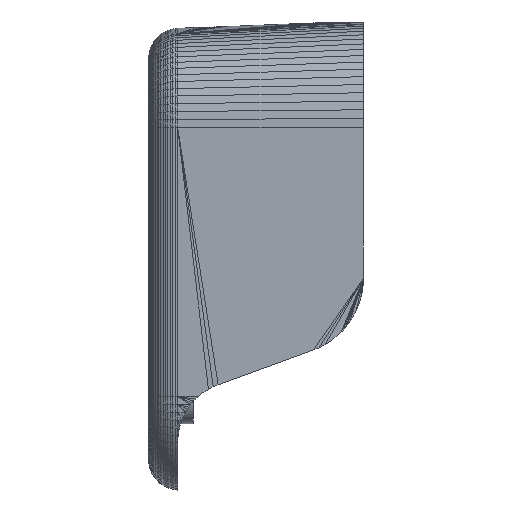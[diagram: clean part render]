
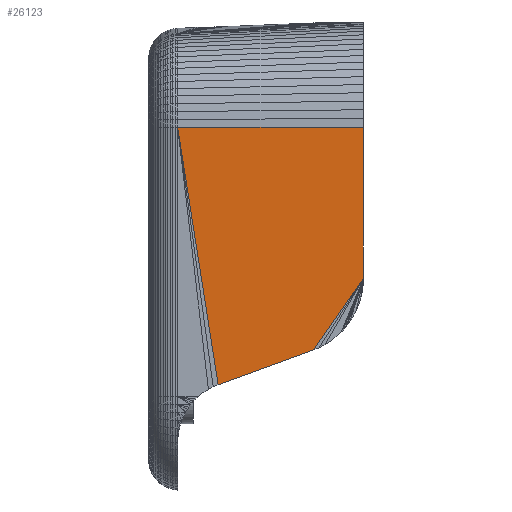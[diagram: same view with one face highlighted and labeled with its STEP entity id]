
A CAD part, front view. The second image highlights one B-rep face of the part: STEP entity #26123.
In plain terms, the highlighted planar face has unit normal (-0.052, -0.999, 0).
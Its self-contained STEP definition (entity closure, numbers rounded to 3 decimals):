
#79 = LINE ( 'NONE', #42123, #107286 ) ;
#1333 = LINE ( 'NONE', #42746, #95669 ) ;
#10342 = DIRECTION ( 'NONE',  ( 0.999, -0.052, 0. ) ) ;
#11545 = CARTESIAN_POINT ( 'NONE',  ( -49.08, -13.123, 6.015 ) ) ;
#15933 = VECTOR ( 'NONE', #76302, 1000. ) ;
#26123 = ADVANCED_FACE ( 'NONE', ( #36216 ), #119658, .T. ) ;
#29509 = ORIENTED_EDGE ( 'NONE', *, *, #55118, .T. ) ;
#36216 = FACE_OUTER_BOUND ( 'NONE', #42720, .T. ) ;
#39234 = ORIENTED_EDGE ( 'NONE', *, *, #128385, .F. ) ;
#42105 = DIRECTION ( 'NONE',  ( -0.939, 0.049, -0.342 ) ) ;
#42123 = CARTESIAN_POINT ( 'NONE',  ( -42.5, -13.467, 35.065 ) ) ;
#42720 = EDGE_LOOP ( 'NONE', ( #133995, #39234, #52052, #29509, #50536 ) ) ;
#42746 = CARTESIAN_POINT ( 'NONE',  ( -49.08, -13.123, 6.015 ) ) ;
#45457 = VECTOR ( 'NONE', #71028, 1000. ) ;
#45585 = CARTESIAN_POINT ( 'NONE',  ( -49.08, -13.123, 6.015 ) ) ;
#49175 = VERTEX_POINT ( 'NONE', #45585 ) ;
#50536 = ORIENTED_EDGE ( 'NONE', *, *, #96657, .F. ) ;
#51435 = EDGE_CURVE ( 'NONE', #49175, #58561, #53641, .T. ) ;
#52052 = ORIENTED_EDGE ( 'NONE', *, *, #51435, .F. ) ;
#52639 = VERTEX_POINT ( 'NONE', #87548 ) ;
#53641 = LINE ( 'NONE', #11545, #58366 ) ;
#54264 = DIRECTION ( 'NONE',  ( 0.573, -0.03, 0.819 ) ) ;
#55118 = EDGE_CURVE ( 'NONE', #49175, #103521, #1333, .T. ) ;
#55942 = LINE ( 'NONE', #87173, #15933 ) ;
#57923 = CARTESIAN_POINT ( 'NONE',  ( -42.5, -13.467, 15.412 ) ) ;
#58245 = EDGE_CURVE ( 'NONE', #52639, #124827, #79, .T. ) ;
#58366 = VECTOR ( 'NONE', #42105, 1000. ) ;
#58561 = VERTEX_POINT ( 'NONE', #69874 ) ;
#66463 = CARTESIAN_POINT ( 'NONE',  ( -66.709, -12.199, 35.065 ) ) ;
#69874 = CARTESIAN_POINT ( 'NONE',  ( -61.436, -12.475, 1.518 ) ) ;
#71028 = DIRECTION ( 'NONE',  ( 0., 0., -1. ) ) ;
#74382 = AXIS2_PLACEMENT_3D ( 'NONE', #57923, #89170, #10342 ) ;
#76302 = DIRECTION ( 'NONE',  ( -0.155, 0.008, 0.988 ) ) ;
#83560 = DIRECTION ( 'NONE',  ( -0.999, 0.052, 0. ) ) ;
#87173 = CARTESIAN_POINT ( 'NONE',  ( -61.436, -12.475, 1.518 ) ) ;
#87548 = CARTESIAN_POINT ( 'NONE',  ( -42.5, -13.467, 35.065 ) ) ;
#89170 = DIRECTION ( 'NONE',  ( -0.052, -0.999, 0. ) ) ;
#92030 = LINE ( 'NONE', #103562, #45457 ) ;
#95669 = VECTOR ( 'NONE', #54264, 1000. ) ;
#96657 = EDGE_CURVE ( 'NONE', #52639, #103521, #92030, .T. ) ;
#103521 = VERTEX_POINT ( 'NONE', #118115 ) ;
#103562 = CARTESIAN_POINT ( 'NONE',  ( -42.5, -13.467, 35.065 ) ) ;
#107286 = VECTOR ( 'NONE', #83560, 1000. ) ;
#118115 = CARTESIAN_POINT ( 'NONE',  ( -42.5, -13.467, 15.412 ) ) ;
#119658 = PLANE ( 'NONE',  #74382 ) ;
#124827 = VERTEX_POINT ( 'NONE', #66463 ) ;
#128385 = EDGE_CURVE ( 'NONE', #58561, #124827, #55942, .T. ) ;
#133995 = ORIENTED_EDGE ( 'NONE', *, *, #58245, .T. ) ;
